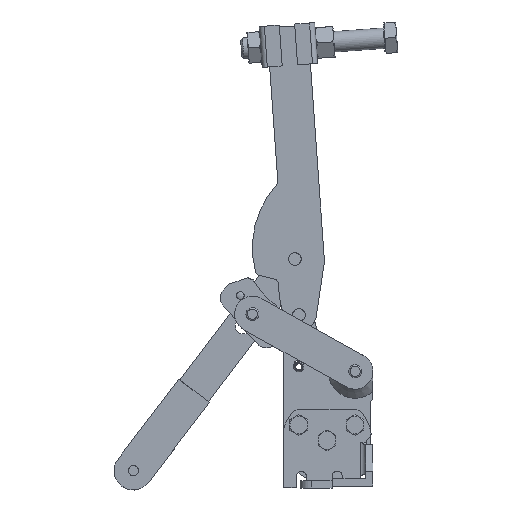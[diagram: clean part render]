
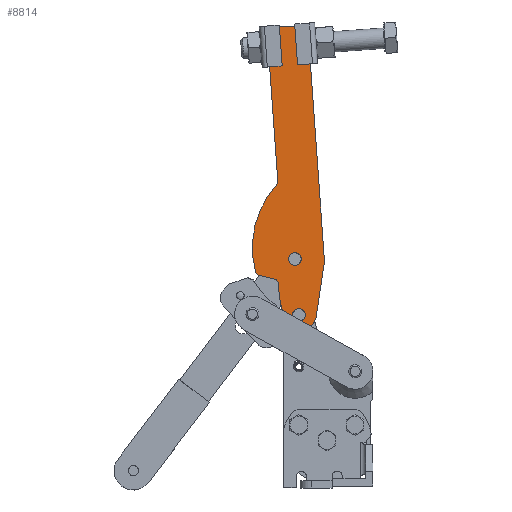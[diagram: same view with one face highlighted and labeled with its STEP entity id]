
A CAD part, top view. The second image highlights one B-rep face of the part: STEP entity #8814.
In plain terms, the highlighted planar face has unit normal (0, 0, 1).
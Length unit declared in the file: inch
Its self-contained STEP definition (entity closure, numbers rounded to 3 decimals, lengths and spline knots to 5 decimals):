
#8223=CARTESIAN_POINT('',(17.13589,12.31686,0.45362));
#8224=VERTEX_POINT('',#8223);
#8225=CARTESIAN_POINT('',(17.14703,12.16025,0.45362));
#8226=DIRECTION('',(0.0,0.0,-1.0));
#8227=DIRECTION('',(0.071,-0.997,0.0));
#8228=AXIS2_PLACEMENT_3D('',#8225,#8226,#8227);
#8229=CIRCLE('',#8228,0.157);
#8230=EDGE_CURVE('',#8224,#8224,#8229,.T.);
#8251=CARTESIAN_POINT('',(17.03832,13.68839,0.45362));
#8252=VERTEX_POINT('',#8251);
#8253=CARTESIAN_POINT('',(17.04946,13.53179,0.45362));
#8254=DIRECTION('',(0.0,0.0,-1.0));
#8255=DIRECTION('',(0.071,-0.997,0.0));
#8256=AXIS2_PLACEMENT_3D('',#8253,#8254,#8255);
#8257=CIRCLE('',#8256,0.157);
#8258=EDGE_CURVE('',#8252,#8252,#8257,.T.);
#8279=CARTESIAN_POINT('',(16.17618,13.13229,0.45362));
#8280=VERTEX_POINT('',#8279);
#8281=CARTESIAN_POINT('',(16.08534,13.22199,0.45362));
#8282=VERTEX_POINT('',#8281);
#8283=CARTESIAN_POINT('',(16.20628,13.25361,0.45362));
#8284=DIRECTION('',(0.0,0.0,-1.0));
#8285=DIRECTION('',(-0.703,-0.712,0.0));
#8286=AXIS2_PLACEMENT_3D('',#8283,#8284,#8285);
#8287=CIRCLE('',#8286,0.125);
#8288=EDGE_CURVE('',#8280,#8282,#8287,.T.);
#8332=CARTESIAN_POINT('',(16.36906,19.12259,0.45362));
#8333=VERTEX_POINT('',#8332);
#8340=CARTESIAN_POINT('',(16.42651,19.18883,0.45362));
#8341=VERTEX_POINT('',#8340);
#8342=CARTESIAN_POINT('',(16.43091,19.12699,0.45362));
#8343=DIRECTION('',(0.0,0.0,-1.0));
#8344=DIRECTION('',(-0.755,0.655,0.0));
#8345=AXIS2_PLACEMENT_3D('',#8342,#8343,#8344);
#8346=CIRCLE('',#8345,0.062);
#8347=EDGE_CURVE('',#8333,#8341,#8346,.T.);
#8374=CARTESIAN_POINT('',(17.3003,19.25099,0.45362));
#8375=VERTEX_POINT('',#8374);
#8382=CARTESIAN_POINT('',(17.36654,19.19354,0.45362));
#8383=VERTEX_POINT('',#8382);
#8384=CARTESIAN_POINT('',(17.3047,19.18914,0.45362));
#8385=DIRECTION('',(0.0,0.0,-1.0));
#8386=DIRECTION('',(0.655,0.755,0.0));
#8387=AXIS2_PLACEMENT_3D('',#8384,#8385,#8386);
#8388=CIRCLE('',#8387,0.062);
#8389=EDGE_CURVE('',#8375,#8383,#8388,.T.);
#8413=CARTESIAN_POINT('',(16.42651,19.18883,0.45362));
#8414=DIRECTION('',(0.997,0.071,0.0));
#8415=VECTOR('',#8414,0.876);
#8416=LINE('',#8413,#8415);
#8417=EDGE_CURVE('',#8341,#8375,#8416,.T.);
#8537=CARTESIAN_POINT('',(16.6291,15.46691,0.45362));
#8538=VERTEX_POINT('',#8537);
#8545=CARTESIAN_POINT('',(16.36906,19.12259,0.45362));
#8546=DIRECTION('',(0.071,-0.997,0.0));
#8547=VECTOR('',#8546,3.66492);
#8548=LINE('',#8545,#8547);
#8549=EDGE_CURVE('',#8333,#8538,#8548,.T.);
#8560=CARTESIAN_POINT('',(16.58874,15.33668,0.45362));
#8561=VERTEX_POINT('',#8560);
#8562=CARTESIAN_POINT('',(18.32216,13.80678,0.45362));
#8563=DIRECTION('',(0.0,0.0,1.0));
#8564=DIRECTION('',(0.75,-0.662,0.0));
#8565=AXIS2_PLACEMENT_3D('',#8562,#8563,#8564);
#8566=CIRCLE('',#8565,2.312);
#8567=EDGE_CURVE('',#8561,#8282,#8566,.T.);
#8585=CARTESIAN_POINT('',(16.8239,12.03827,0.45362));
#8586=VERTEX_POINT('',#8585);
#8593=CARTESIAN_POINT('',(16.6467,12.91884,0.45362));
#8594=VERTEX_POINT('',#8593);
#8595=CARTESIAN_POINT('',(19.02161,12.93864,0.45362));
#8596=DIRECTION('',(0.0,0.0,1.0));
#8597=DIRECTION('',(1.,0.008,0.0));
#8598=AXIS2_PLACEMENT_3D('',#8595,#8596,#8597);
#8599=CIRCLE('',#8598,2.375);
#8600=EDGE_CURVE('',#8594,#8586,#8599,.T.);
#8618=CARTESIAN_POINT('',(16.5518,13.03912,0.45362));
#8619=VERTEX_POINT('',#8618);
#8620=CARTESIAN_POINT('',(16.5217,12.91779,0.45362));
#8621=DIRECTION('',(0.0,0.0,-1.0));
#8622=DIRECTION('',(1.,0.008,0.0));
#8623=AXIS2_PLACEMENT_3D('',#8620,#8621,#8622);
#8624=CIRCLE('',#8623,0.125);
#8625=EDGE_CURVE('',#8619,#8594,#8624,.T.);
#8644=CARTESIAN_POINT('',(16.17618,13.13229,0.45362));
#8645=DIRECTION('',(0.971,-0.241,0.0));
#8646=VECTOR('',#8645,0.387);
#8647=LINE('',#8644,#8646);
#8648=EDGE_CURVE('',#8280,#8619,#8647,.T.);
#8660=CARTESIAN_POINT('',(16.63547,15.46533,0.45362));
#8661=VERTEX_POINT('',#8660);
#8662=CARTESIAN_POINT('',(16.44853,15.46042,0.45362));
#8663=DIRECTION('',(0.0,0.0,-1.0));
#8664=DIRECTION('',(0.75,-0.662,0.0));
#8665=AXIS2_PLACEMENT_3D('',#8662,#8663,#8664);
#8666=CIRCLE('',#8665,0.187);
#8667=EDGE_CURVE('',#8661,#8561,#8666,.T.);
#8685=CARTESIAN_POINT('',(16.6291,15.46691,0.45362));
#8686=DIRECTION('',(0.971,-0.241,0.0));
#8687=VECTOR('',#8686,0.00656);
#8688=LINE('',#8685,#8687);
#8689=EDGE_CURVE('',#8538,#8661,#8688,.T.);
#8701=CARTESIAN_POINT('',(17.77285,13.48154,0.45362));
#8702=VERTEX_POINT('',#8701);
#8709=CARTESIAN_POINT('',(17.5753,12.14874,0.45362));
#8710=VERTEX_POINT('',#8709);
#8711=CARTESIAN_POINT('',(17.5753,12.14874,0.45362));
#8712=DIRECTION('',(0.147,0.989,0.0));
#8713=VECTOR('',#8712,1.34737);
#8714=LINE('',#8711,#8713);
#8715=EDGE_CURVE('',#8710,#8702,#8714,.T.);
#8733=CARTESIAN_POINT('',(17.20249,11.80329,0.45362));
#8734=VERTEX_POINT('',#8733);
#8735=CARTESIAN_POINT('',(17.17369,12.20827,0.45362));
#8736=DIRECTION('',(0.0,0.0,1.0));
#8737=DIRECTION('',(-0.071,0.997,0.0));
#8738=AXIS2_PLACEMENT_3D('',#8735,#8736,#8737);
#8739=CIRCLE('',#8738,0.406);
#8740=EDGE_CURVE('',#8734,#8710,#8739,.T.);
#8758=CARTESIAN_POINT('',(17.17553,12.18233,0.45362));
#8759=DIRECTION('',(0.0,0.0,1.0));
#8760=DIRECTION('',(0.925,0.379,0.0));
#8761=AXIS2_PLACEMENT_3D('',#8758,#8759,#8760);
#8762=CIRCLE('',#8761,0.38);
#8763=EDGE_CURVE('',#8586,#8734,#8762,.T.);
#8775=CARTESIAN_POINT('',(17.36654,19.19354,0.45362));
#8776=DIRECTION('',(0.071,-0.997,0.0));
#8777=VECTOR('',#8776,5.72643);
#8778=LINE('',#8775,#8777);
#8779=EDGE_CURVE('',#8383,#8702,#8778,.T.);
#8786=CARTESIAN_POINT('',(16.63074,15.44389,0.45362));
#8787=DIRECTION('',(0.0,0.0,1.0));
#8788=DIRECTION('',(-0.071,0.997,0.0));
#8789=AXIS2_PLACEMENT_3D('',#8786,#8787,#8788);
#8790=PLANE('',#8789);
#8791=ORIENTED_EDGE('',*,*,#8389,.F.);
#8792=ORIENTED_EDGE('',*,*,#8417,.F.);
#8793=ORIENTED_EDGE('',*,*,#8347,.F.);
#8794=ORIENTED_EDGE('',*,*,#8549,.T.);
#8795=ORIENTED_EDGE('',*,*,#8689,.T.);
#8796=ORIENTED_EDGE('',*,*,#8667,.T.);
#8797=ORIENTED_EDGE('',*,*,#8567,.T.);
#8798=ORIENTED_EDGE('',*,*,#8288,.F.);
#8799=ORIENTED_EDGE('',*,*,#8648,.T.);
#8800=ORIENTED_EDGE('',*,*,#8625,.T.);
#8801=ORIENTED_EDGE('',*,*,#8600,.T.);
#8802=ORIENTED_EDGE('',*,*,#8763,.T.);
#8803=ORIENTED_EDGE('',*,*,#8740,.T.);
#8804=ORIENTED_EDGE('',*,*,#8715,.T.);
#8805=ORIENTED_EDGE('',*,*,#8779,.F.);
#8806=EDGE_LOOP('',(#8791,#8792,#8793,#8794,#8795,#8796,#8797,#8798,#8799,#8800,#8801,#8802,#8803,#8804,#8805));
#8807=FACE_OUTER_BOUND('',#8806,.T.);
#8808=ORIENTED_EDGE('',*,*,#8258,.T.);
#8809=EDGE_LOOP('',(#8808));
#8810=FACE_BOUND('',#8809,.T.);
#8811=ORIENTED_EDGE('',*,*,#8230,.T.);
#8812=EDGE_LOOP('',(#8811));
#8813=FACE_BOUND('',#8812,.T.);
#8814=ADVANCED_FACE('',(#8807,#8810,#8813),#8790,.T.);
